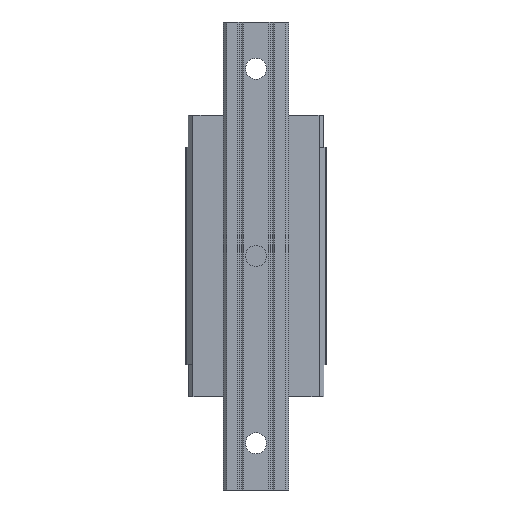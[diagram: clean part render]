
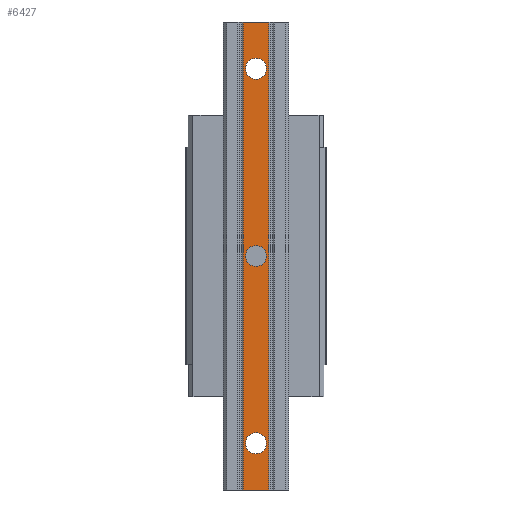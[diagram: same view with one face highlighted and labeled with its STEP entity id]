
A CAD part, front view. The second image highlights one B-rep face of the part: STEP entity #6427.
In plain terms, the highlighted planar face has unit normal (0, -1, 0).
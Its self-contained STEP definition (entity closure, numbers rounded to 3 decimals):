
#5217=DIRECTION('',(-1.,0.,0.));
#5218=VECTOR('',#5217,11.1);
#5219=CARTESIAN_POINT('',(5.55,-26.,-100.));
#5220=LINE('',#5219,#5218);
#5221=DIRECTION('',(0.,0.,-1.));
#5222=VECTOR('',#5221,200.);
#5223=CARTESIAN_POINT('',(5.55,-26.,100.));
#5224=LINE('',#5223,#5222);
#5225=CARTESIAN_POINT('',(0.,-26.,0.));
#5226=DIRECTION('',(0.,-1.,0.));
#5227=DIRECTION('',(1.,0.,0.));
#5228=AXIS2_PLACEMENT_3D('',#5225,#5226,#5227);
#5230=CARTESIAN_POINT('',(0.,-26.,0.));
#5231=DIRECTION('',(0.,-1.,0.));
#5232=DIRECTION('',(-1.,0.,0.));
#5233=AXIS2_PLACEMENT_3D('',#5230,#5231,#5232);
#5235=CARTESIAN_POINT('',(0.,-26.,80.));
#5236=DIRECTION('',(0.,-1.,0.));
#5237=DIRECTION('',(1.,0.,0.));
#5238=AXIS2_PLACEMENT_3D('',#5235,#5236,#5237);
#5240=CARTESIAN_POINT('',(0.,-26.,80.));
#5241=DIRECTION('',(0.,-1.,0.));
#5242=DIRECTION('',(-1.,0.,0.));
#5243=AXIS2_PLACEMENT_3D('',#5240,#5241,#5242);
#5245=CARTESIAN_POINT('',(0.,-26.,-80.));
#5246=DIRECTION('',(0.,-1.,0.));
#5247=DIRECTION('',(1.,0.,0.));
#5248=AXIS2_PLACEMENT_3D('',#5245,#5246,#5247);
#5250=CARTESIAN_POINT('',(0.,-26.,-80.));
#5251=DIRECTION('',(0.,-1.,0.));
#5252=DIRECTION('',(-1.,0.,0.));
#5253=AXIS2_PLACEMENT_3D('',#5250,#5251,#5252);
#5255=DIRECTION('',(0.,0.,-1.));
#5256=VECTOR('',#5255,200.);
#5257=CARTESIAN_POINT('',(-5.55,-26.,100.));
#5258=LINE('',#5257,#5256);
#5517=DIRECTION('',(-1.,0.,0.));
#5518=VECTOR('',#5517,11.1);
#5519=CARTESIAN_POINT('',(5.55,-26.,100.));
#5520=LINE('',#5519,#5518);
#5819=CARTESIAN_POINT('',(-5.55,-26.,-100.));
#5820=VERTEX_POINT('',#5819);
#5821=CARTESIAN_POINT('',(5.55,-26.,-100.));
#5822=VERTEX_POINT('',#5821);
#5899=CARTESIAN_POINT('',(5.55,-26.,100.));
#5900=VERTEX_POINT('',#5899);
#5901=CARTESIAN_POINT('',(-5.55,-26.,100.));
#5902=VERTEX_POINT('',#5901);
#5903=CARTESIAN_POINT('',(4.5,-26.,0.));
#5904=CARTESIAN_POINT('',(-4.5,-26.,0.));
#5905=VERTEX_POINT('',#5903);
#5906=VERTEX_POINT('',#5904);
#5907=CARTESIAN_POINT('',(4.5,-26.,80.));
#5908=CARTESIAN_POINT('',(-4.5,-26.,80.));
#5909=VERTEX_POINT('',#5907);
#5910=VERTEX_POINT('',#5908);
#5911=CARTESIAN_POINT('',(4.5,-26.,-80.));
#5912=CARTESIAN_POINT('',(-4.5,-26.,-80.));
#5913=VERTEX_POINT('',#5911);
#5914=VERTEX_POINT('',#5912);
#6396=CARTESIAN_POINT('',(-5.55,-26.,-100.));
#6397=DIRECTION('',(0.,-1.,0.));
#6398=DIRECTION('',(1.,0.,0.));
#6399=AXIS2_PLACEMENT_3D('',#6396,#6397,#6398);
#6400=PLANE('',#6399);
#6401=ORIENTED_EDGE('',*,*,#6072,.T.);
#6403=ORIENTED_EDGE('',*,*,#6402,.F.);
#6405=ORIENTED_EDGE('',*,*,#6404,.F.);
#6406=ORIENTED_EDGE('',*,*,#6388,.T.);
#6407=EDGE_LOOP('',(#6401,#6403,#6405,#6406));
#6408=FACE_OUTER_BOUND('',#6407,.F.);
#6410=ORIENTED_EDGE('',*,*,#6409,.T.);
#6412=ORIENTED_EDGE('',*,*,#6411,.T.);
#6413=EDGE_LOOP('',(#6410,#6412));
#6414=FACE_BOUND('',#6413,.F.);
#6416=ORIENTED_EDGE('',*,*,#6415,.T.);
#6418=ORIENTED_EDGE('',*,*,#6417,.T.);
#6419=EDGE_LOOP('',(#6416,#6418));
#6420=FACE_BOUND('',#6419,.F.);
#6422=ORIENTED_EDGE('',*,*,#6421,.T.);
#6424=ORIENTED_EDGE('',*,*,#6423,.T.);
#6425=EDGE_LOOP('',(#6422,#6424));
#6426=FACE_BOUND('',#6425,.F.);
#6427=ADVANCED_FACE('',(#6408,#6414,#6420,#6426),#6400,.T.);
#5229=CIRCLE('',#5228,4.5);
#5234=CIRCLE('',#5233,4.5);
#5239=CIRCLE('',#5238,4.5);
#5244=CIRCLE('',#5243,4.5);
#5249=CIRCLE('',#5248,4.5);
#5254=CIRCLE('',#5253,4.5);
#6072=EDGE_CURVE('',#5822,#5820,#5220,.T.);
#6388=EDGE_CURVE('',#5900,#5822,#5224,.T.);
#6402=EDGE_CURVE('',#5902,#5820,#5258,.T.);
#6404=EDGE_CURVE('',#5900,#5902,#5520,.T.);
#6409=EDGE_CURVE('',#5905,#5906,#5229,.T.);
#6411=EDGE_CURVE('',#5906,#5905,#5234,.T.);
#6415=EDGE_CURVE('',#5909,#5910,#5239,.T.);
#6417=EDGE_CURVE('',#5910,#5909,#5244,.T.);
#6421=EDGE_CURVE('',#5913,#5914,#5249,.T.);
#6423=EDGE_CURVE('',#5914,#5913,#5254,.T.);
